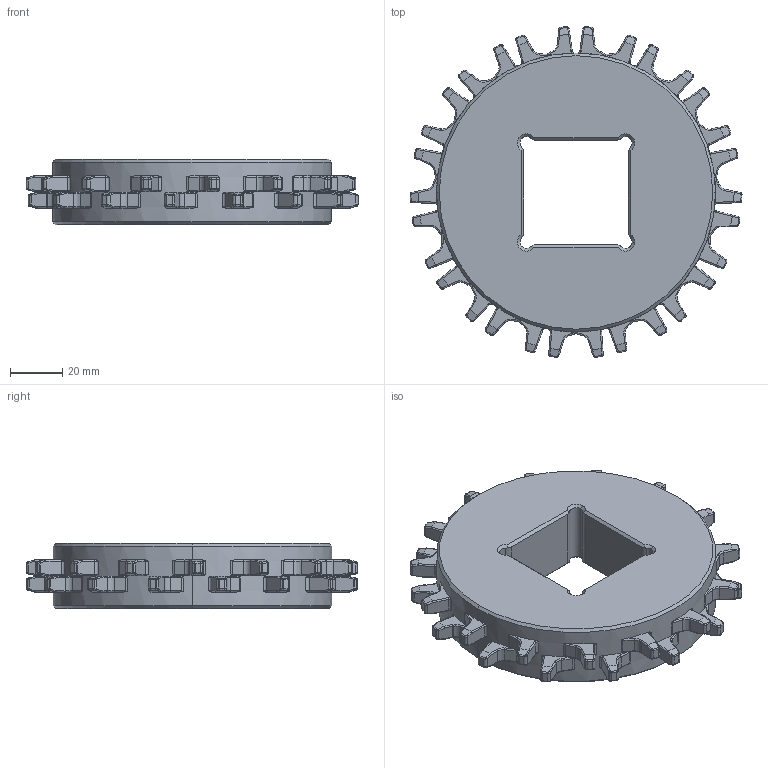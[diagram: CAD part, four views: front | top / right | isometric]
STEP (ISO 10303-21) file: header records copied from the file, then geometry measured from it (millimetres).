
FILE_DESCRIPTION (( 'STEP AP203' ), '1' );
FILE_NAME ('耀郪湍喘謫,HS-2400B-15T-2R-S40.STEP', '2024-05-28T11:33:44', ( 'PC' ), ( 'Microsoft' ), 'SwSTEP 2.0', 'SolidWorks 2018', '' );
FILE_SCHEMA (( 'CONFIG_CONTROL_DESIGN' ));
Length unit declared in the file: millimetre
Products named in the file (1): 耀郪湍喘謫,HS-2400B-15T-2R-S40
Bounding box: 127.53 x 127.02 x 25 mm (x, y, z)
Volume: 193302.7 mm3; surface area: 32507.6 mm2
Topology: 1 solids, 1 shells, 1163 faces, 2911 edges, 1778 vertices
Faces by surface type: bspline 390, cylinder 371, plane 194, torus 130, cone 78
Entity records: 44178 total; most frequent: CARTESIAN_POINT 19847, ORIENTED_EDGE 5822, DIRECTION 4123, EDGE_CURVE 2911, VERTEX_POINT 1778, AXIS2_PLACEMENT_3D 1680, EDGE_LOOP 1193, FACE_OUTER_BOUND 1163
